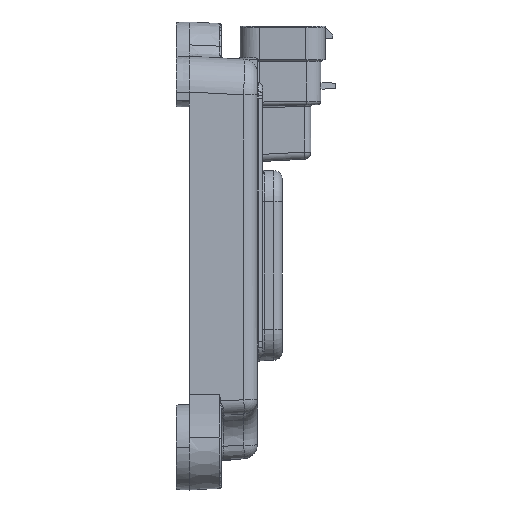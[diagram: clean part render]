
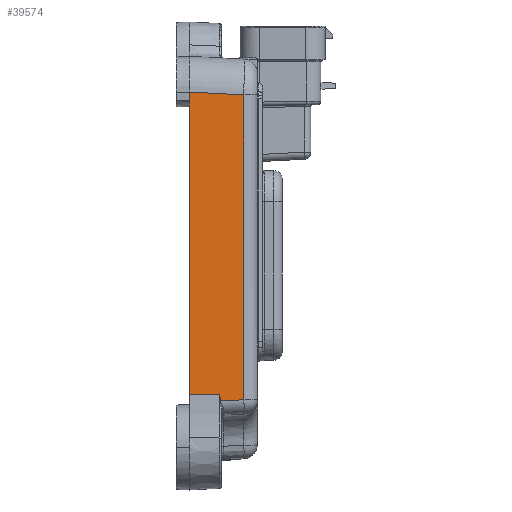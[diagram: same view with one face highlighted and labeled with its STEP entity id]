
A CAD part, left-side view. The second image highlights one B-rep face of the part: STEP entity #39574.
In plain terms, the highlighted planar face has unit normal (-0.999, -0.052, 0).
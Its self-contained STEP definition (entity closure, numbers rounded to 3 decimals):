
#8595=CARTESIAN_POINT('',(-74.703,-7.209,
-19.283));
#8980=DIRECTION('',(0.,0.,1.));
#8981=VECTOR('',#8980,85.368);
#8982=CARTESIAN_POINT('',(-74.703,-7.209,
-104.651));
#8983=LINE('',#8982,#8981);
#9558=CARTESIAN_POINT('',(-75.5,8.,
-18.486));
#9580=DIRECTION('',(-0.052,0.997,-0.052));
#9581=VECTOR('',#9580,6.53);
#9582=CARTESIAN_POINT('',(-74.703,-7.209,
-104.651));
#9583=LINE('',#9582,#9581);
#9584=CARTESIAN_POINT('',(-75.044,-0.697,
-104.993));
#9585=CARTESIAN_POINT('',(-75.048,-0.623,
-104.433));
#9586=CARTESIAN_POINT('',(-75.052,-0.548,
-103.873));
#9587=CARTESIAN_POINT('',(-75.056,-0.471,
-103.314));
#9589=DIRECTION('',(-0.052,0.999,0.006));
#9590=VECTOR('',#9589,8.483);
#9591=CARTESIAN_POINT('',(-75.056,-0.471,
-103.314));
#9592=LINE('',#9591,#9590);
#9593=DIRECTION('',(0.,0.,1.));
#9594=VECTOR('',#9593,2.51);
#9595=CARTESIAN_POINT('',(-75.5,8.,
-20.997));
#9596=LINE('',#9595,#9594);
#9597=DIRECTION('',(0.052,-0.997,-0.052));
#9598=VECTOR('',#9597,15.251);
#9599=CARTESIAN_POINT('',(-75.5,8.,
-18.486));
#9600=LINE('',#9599,#9598);
#10183=DIRECTION('',(0.,0.,-1.));
#10184=VECTOR('',#10183,82.267);
#10185=CARTESIAN_POINT('',(-75.5,8.,
-20.997));
#10186=LINE('',#10185,#10184);
#25669=VERTEX_POINT('',#8595);
#25732=CARTESIAN_POINT('',(-74.703,-7.209,
-104.651));
#25733=VERTEX_POINT('',#25732);
#25850=VERTEX_POINT('',#9558);
#25853=CARTESIAN_POINT('',(-75.044,-0.697,
-104.993));
#25854=VERTEX_POINT('',#25853);
#25855=VERTEX_POINT('',#9587);
#25856=CARTESIAN_POINT('',(-75.5,8.,
-103.264));
#25857=VERTEX_POINT('',#25856);
#25858=CARTESIAN_POINT('',(-75.5,8.,
-20.997));
#25859=VERTEX_POINT('',#25858);
#39555=CARTESIAN_POINT('',(-75.101,0.395,
-61.739));
#39556=DIRECTION('',(0.999,0.052,0.));
#39557=DIRECTION('',(0.,0.,1.));
#39558=AXIS2_PLACEMENT_3D('',#39555,#39556,#39557);
#39559=PLANE('',#39558);
#39561=ORIENTED_EDGE('',*,*,#39560,.T.);
#39563=ORIENTED_EDGE('',*,*,#39562,.T.);
#39565=ORIENTED_EDGE('',*,*,#39564,.T.);
#39567=ORIENTED_EDGE('',*,*,#39566,.F.);
#39569=ORIENTED_EDGE('',*,*,#39568,.T.);
#39570=ORIENTED_EDGE('',*,*,#39550,.T.);
#39571=ORIENTED_EDGE('',*,*,#38543,.F.);
#39572=EDGE_LOOP('',(#39561,#39563,#39565,#39567,#39569,#39570,#39571));
#39573=FACE_OUTER_BOUND('',#39572,.F.);
#39574=ADVANCED_FACE('',(#39573),#39559,.F.);
#9588=B_SPLINE_CURVE_WITH_KNOTS('',3,(#9584,#9585,#9586,#9587),.UNSPECIFIED.,
.F.,.F.,(4,4),(0.,1.),.UNSPECIFIED.);
#38543=EDGE_CURVE('',#25733,#25669,#8983,.T.);
#39550=EDGE_CURVE('',#25850,#25669,#9600,.T.);
#39560=EDGE_CURVE('',#25733,#25854,#9583,.T.);
#39562=EDGE_CURVE('',#25854,#25855,#9588,.T.);
#39564=EDGE_CURVE('',#25855,#25857,#9592,.T.);
#39566=EDGE_CURVE('',#25859,#25857,#10186,.T.);
#39568=EDGE_CURVE('',#25859,#25850,#9596,.T.);
